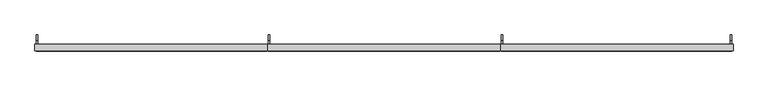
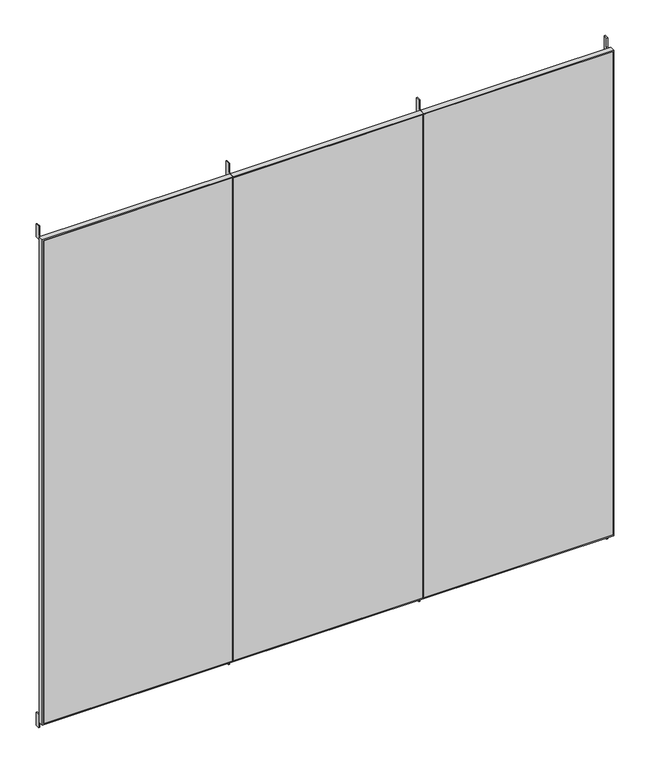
"""IFC4 building model written with IfcOpenShell, lengths in millimetres: furniture geometry, H03 Protección 3 módulos : H3.1 Protección 3 módulos 350x315."""

from ifc_helpers import new_model, si_unit, frame, origin, place, context, project, spatial, polyline, outline, extrude, source, transform, mapped, element, save


def furniture_f0ac5a82(model_context):
    return source(origin(), model_context, "Body", "SweptSolid", [
        extrude(outline(polyline([(3100.0, 44.7003264), (3100.0, -1088.6330069), (50.0, -1088.6330069), (50.0, 44.7003264), (3100.0, 44.7003264)]), holes=[polyline([(3093.0, 41.2003264), (57.0, 41.2003264), (57.0, -1085.1330069), (3093.0, -1085.1330069), (3093.0, 41.2003264)])]), frame((0.0, -600.0, 0.0), z_axis=(0.0, 1.0, 0.0), x_axis=(0.0, 0.0, 1.0)), (0.0, 0.0, 1.0), 32.0),
        extrude(outline(polyline([(1171.0336598, -600.0), (48.2003264, -600.0), (48.2003264, -597.0), (1171.0336598, -597.0), (1171.0336598, -600.0)])), frame((0.0, 0.0, 57.0), z_axis=(0.0, 0.0, 1.0), x_axis=(1.0, 0.0, 0.0)), (0.0, 0.0, 1.0), 3036.0),
        extrude(outline(polyline([(3100.0, 1178.0336598), (3100.0, 44.7003264), (50.0, 44.7003264), (50.0, 1178.0336598), (3100.0, 1178.0336598)]), holes=[polyline([(3093.0, 1171.0336598), (57.0, 1171.0336598), (57.0, 48.2003264), (3093.0, 48.2003264), (3093.0, 1171.0336598)])]), frame((0.0, -600.0, 0.0), z_axis=(0.0, 1.0, 0.0), x_axis=(0.0, 0.0, 1.0)), (0.0, 0.0, 1.0), 32.0),
        extrude(outline(polyline([(41.2003264, -600.0), (-1085.1330069, -600.0), (-1085.1330069, -597.0), (41.2003264, -597.0), (41.2003264, -600.0)])), frame((0.0, 0.0, 57.0), z_axis=(0.0, 0.0, 1.0), x_axis=(1.0, 0.0, 0.0)), (0.0, 0.0, 1.0), 3036.0),
        extrude(outline(polyline([(-1092.1330069, -600.0), (-2214.9663402, -600.0), (-2214.9663402, -597.0), (-1092.1330069, -597.0), (-1092.1330069, -600.0)])), frame((0.0, 0.0, 57.0), z_axis=(0.0, 0.0, 1.0), x_axis=(1.0, 0.0, 0.0)), (0.0, 0.0, 1.0), 3036.0),
        extrude(outline(polyline([(3100.0, -1088.6330069), (3100.0, -2221.9663402), (50.0, -2221.9663402), (50.0, -1088.6330069), (3100.0, -1088.6330069)]), holes=[polyline([(3093.0, -1092.1330069), (57.0, -1092.1330069), (57.0, -2214.9663402), (3093.0, -2214.9663402), (3093.0, -1092.1330069)])]), frame((0.0, -600.0, 0.0), z_axis=(0.0, 1.0, 0.0), x_axis=(0.0, 0.0, 1.0)), (0.0, 0.0, 1.0), 32.0),
        extrude(outline(polyline([(-522.0, 3068.0), (-597.0, 3068.0), (-597.0, 3093.0), (-547.0, 3093.0), (-547.0, 3150.0), (-522.0, 3150.0), (-522.0, 3068.0)])), frame((-2214.9663402, 0.0, 0.0), z_axis=(1.0, 0.0, 0.0), x_axis=(0.0, 1.0, 0.0)), (0.0, 0.0, 1.0), 7.0),
        extrude(outline(polyline([(-522.0, 3068.0), (-597.0, 3068.0), (-597.0, 3093.0), (-547.0, 3093.0), (-547.0, 3150.0), (-522.0, 3150.0), (-522.0, 3068.0)])), frame((-1085.1330069, 0.0, 0.0), z_axis=(1.0, 0.0, 0.0), x_axis=(0.0, 1.0, 0.0)), (0.0, 0.0, 1.0), 7.0),
        extrude(outline(polyline([(-522.0, 3068.0), (-597.0, 3068.0), (-597.0, 3093.0), (-547.0, 3093.0), (-547.0, 3150.0), (-522.0, 3150.0), (-522.0, 3068.0)])), frame((1164.0336598, 0.0, 0.0), z_axis=(1.0, 0.0, 0.0), x_axis=(0.0, 1.0, 0.0)), (0.0, 0.0, 1.0), 7.0),
        extrude(outline(polyline([(-522.0, 82.0), (-522.0, 0.0), (-547.0, 0.0), (-547.0, 57.0), (-597.0, 57.0), (-597.0, 82.0), (-522.0, 82.0)])), frame((1164.0336598, 0.0, 0.0), z_axis=(1.0, 0.0, 0.0), x_axis=(0.0, 1.0, 0.0)), (0.0, 0.0, 1.0), 7.0),
        extrude(outline(polyline([(-522.0, 82.0), (-522.0, 0.0), (-547.0, 0.0), (-547.0, 57.0), (-597.0, 57.0), (-597.0, 82.0), (-522.0, 82.0)])), frame((-2214.9663402, 0.0, 0.0), z_axis=(1.0, 0.0, 0.0), x_axis=(0.0, 1.0, 0.0)), (0.0, 0.0, 1.0), 7.0),
        extrude(outline(polyline([(-522.0, 82.0), (-522.0, 0.0), (-547.0, 0.0), (-547.0, 57.0), (-597.0, 57.0), (-597.0, 82.0), (-522.0, 82.0)])), frame((-1085.1330069, 0.0, 0.0), z_axis=(1.0, 0.0, 0.0), x_axis=(0.0, 1.0, 0.0)), (0.0, 0.0, 1.0), 7.0),
        extrude(outline(polyline([(-522.0, 3068.0), (-597.0, 3068.0), (-597.0, 3093.0), (-547.0, 3093.0), (-547.0, 3150.0), (-522.0, 3150.0), (-522.0, 3068.0)])), frame((48.2003264, 0.0, 0.0), z_axis=(1.0, 0.0, 0.0), x_axis=(0.0, 1.0, 0.0)), (0.0, 0.0, 1.0), 7.0),
        extrude(outline(polyline([(-522.0, 82.0), (-522.0, 0.0), (-547.0, 0.0), (-547.0, 57.0), (-597.0, 57.0), (-597.0, 82.0), (-522.0, 82.0)])), frame((48.2003264, 0.0, 0.0), z_axis=(1.0, 0.0, 0.0), x_axis=(0.0, 1.0, 0.0)), (0.0, 0.0, 1.0), 7.0),
    ])


if __name__ == "__main__":
    model = new_model("IFC4")
    model_context = context("Model", 3, world=origin())
    ifc_project = project(units=[si_unit("LENGTHUNIT", "METRE", prefix="MILLI")], contexts=[model_context])
    site = spatial("IfcSite", under=ifc_project)
    building = spatial("IfcBuilding", under=site)
    placement = place(None, origin())
    furniture_shape = furniture_f0ac5a82(model_context)
    element("IfcFurniture", 1, ObjectType="H03 Protección 3 módulos : H3.1 Protección 3 módulos 350x315", at=placement, inside=building, context=model_context, shape_type="MappedRepresentation", body=[
        mapped(furniture_shape, transform((0.0, 0.0, 0.0), x_axis=(1.0, 0.0, 0.0), y_axis=(0.0, 1.0, 0.0), z_axis=(0.0, 0.0, 1.0))),
    ])
    save(model, "model.ifc")
